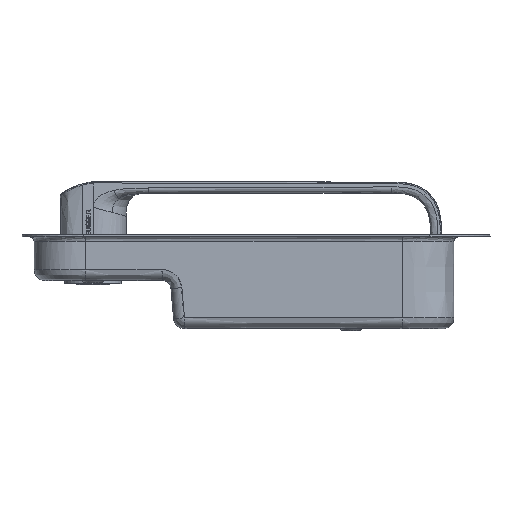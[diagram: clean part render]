
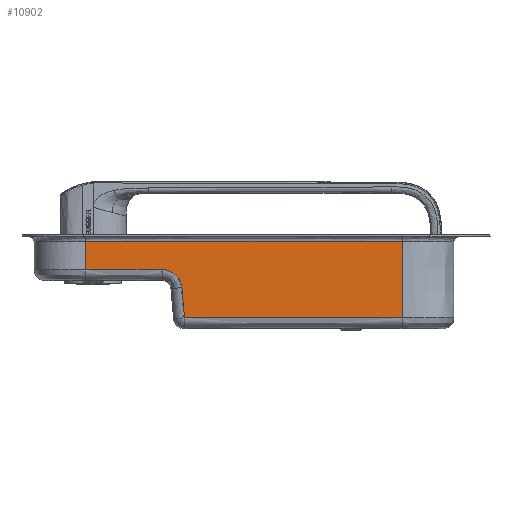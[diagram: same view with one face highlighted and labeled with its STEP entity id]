
A CAD part, front view. The second image highlights one B-rep face of the part: STEP entity #10902.
In plain terms, the highlighted planar face has unit normal (0, -1, 0).
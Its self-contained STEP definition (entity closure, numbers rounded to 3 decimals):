
#759=B_SPLINE_CURVE_WITH_KNOTS('',3,(#27660,#27661,#27662,#27663,#27664,
#27665,#27666,#27667,#27668,#27669,#27670,#27671,#27672),.UNSPECIFIED.,
 .F.,.F.,(4,3,3,3,4),(0.,0.25,0.5,0.75,1.),.UNSPECIFIED.);
#1766=LINE('',#27674,#2591);
#1767=LINE('',#27676,#2592);
#1768=LINE('',#27678,#2593);
#1769=LINE('',#27680,#2594);
#1770=LINE('',#27682,#2595);
#1771=LINE('',#27683,#2596);
#2591=VECTOR('',#13230,10.);
#2592=VECTOR('',#13231,10.);
#2593=VECTOR('',#13232,10.);
#2594=VECTOR('',#13233,10.);
#2595=VECTOR('',#13234,10.);
#2596=VECTOR('',#13235,10.);
#3139=FACE_OUTER_BOUND('',#3822,.T.);
#3822=EDGE_LOOP('',(#9200,#9201,#9202,#9203,#9204,#9205,#9206));
#4971=VERTEX_POINT('',#27658);
#4972=VERTEX_POINT('',#27659);
#4973=VERTEX_POINT('',#27673);
#4974=VERTEX_POINT('',#27675);
#4975=VERTEX_POINT('',#27677);
#4976=VERTEX_POINT('',#27679);
#4977=VERTEX_POINT('',#27681);
#6397=EDGE_CURVE('',#4971,#4972,#759,.T.);
#6398=EDGE_CURVE('',#4972,#4973,#1766,.T.);
#6399=EDGE_CURVE('',#4973,#4974,#1767,.T.);
#6400=EDGE_CURVE('',#4974,#4975,#1768,.T.);
#6401=EDGE_CURVE('',#4975,#4976,#1769,.T.);
#6402=EDGE_CURVE('',#4976,#4977,#1770,.T.);
#6403=EDGE_CURVE('',#4977,#4971,#1771,.T.);
#9200=ORIENTED_EDGE('',*,*,#6397,.T.);
#9201=ORIENTED_EDGE('',*,*,#6398,.T.);
#9202=ORIENTED_EDGE('',*,*,#6399,.T.);
#9203=ORIENTED_EDGE('',*,*,#6400,.T.);
#9204=ORIENTED_EDGE('',*,*,#6401,.T.);
#9205=ORIENTED_EDGE('',*,*,#6402,.T.);
#9206=ORIENTED_EDGE('',*,*,#6403,.T.);
#9784=PLANE('',#11464);
#10902=ADVANCED_FACE('',(#3139),#9784,.F.);
#11464=AXIS2_PLACEMENT_3D('',#27657,#13228,#13229);
#13228=DIRECTION('center_axis',(0.,1.,0.));
#13229=DIRECTION('ref_axis',(0.,0.,1.));
#13230=DIRECTION('',(0.085,0.,-0.996));
#13231=DIRECTION('',(1.,0.,0.));
#13232=DIRECTION('',(0.,0.,1.));
#13233=DIRECTION('',(-1.,0.,0.));
#13234=DIRECTION('',(0.,0.,-1.));
#13235=DIRECTION('',(1.,0.,0.));
#27657=CARTESIAN_POINT('Origin',(-2.567,-110.021,21.195));
#27658=CARTESIAN_POINT('',(-39.938,-110.021,5.985));
#27659=CARTESIAN_POINT('',(-30.971,-110.021,-2.249));
#27660=CARTESIAN_POINT('Ctrl Pts',(-39.938,-110.021,
5.985));
#27661=CARTESIAN_POINT('Ctrl Pts',(-38.822,-110.021,
5.985));
#27662=CARTESIAN_POINT('Ctrl Pts',(-37.703,-110.021,
5.775));
#27663=CARTESIAN_POINT('Ctrl Pts',(-36.672,-110.021,
5.373));
#27664=CARTESIAN_POINT('Ctrl Pts',(-35.641,-110.021,
4.972));
#27665=CARTESIAN_POINT('Ctrl Pts',(-34.668,-110.021,
4.365));
#27666=CARTESIAN_POINT('Ctrl Pts',(-33.851,-110.021,
3.614));
#27667=CARTESIAN_POINT('Ctrl Pts',(-33.034,-110.021,
2.864));
#27668=CARTESIAN_POINT('Ctrl Pts',(-32.346,-110.021,
1.946));
#27669=CARTESIAN_POINT('Ctrl Pts',(-31.858,-110.021,0.953));
#27670=CARTESIAN_POINT('Ctrl Pts',(-31.37,-110.021,
-0.04));
#27671=CARTESIAN_POINT('Ctrl Pts',(-31.066,-110.021,-1.137));
#27672=CARTESIAN_POINT('Ctrl Pts',(-30.971,-110.021,
-2.249));
#27673=CARTESIAN_POINT('',(-29.794,-110.021,-16.015));
#27674=CARTESIAN_POINT('',(-30.971,-110.021,-2.249));
#27675=CARTESIAN_POINT('',(69.894,-110.021,-16.015));
#27676=CARTESIAN_POINT('',(-29.794,-110.021,-16.015));
#27677=CARTESIAN_POINT('',(69.894,-110.021,18.985));
#27678=CARTESIAN_POINT('',(69.894,-110.021,-16.015));
#27679=CARTESIAN_POINT('',(-75.029,-110.021,18.985));
#27680=CARTESIAN_POINT('',(69.894,-110.021,18.985));
#27681=CARTESIAN_POINT('',(-75.029,-110.021,5.985));
#27682=CARTESIAN_POINT('',(-75.029,-110.021,18.985));
#27683=CARTESIAN_POINT('',(-75.029,-110.021,5.985));
